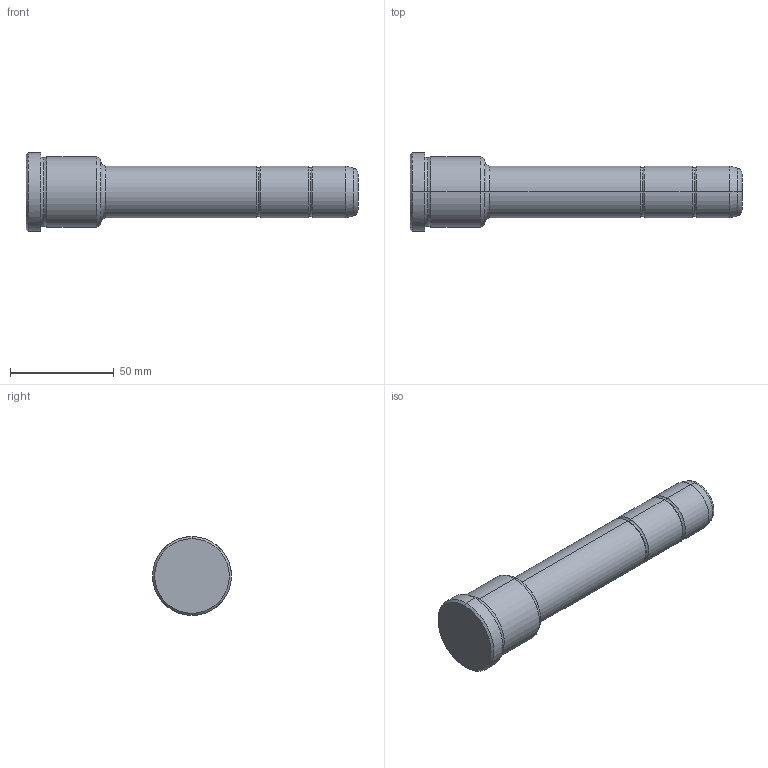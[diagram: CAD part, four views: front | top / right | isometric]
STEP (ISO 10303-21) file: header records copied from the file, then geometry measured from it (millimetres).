
FILE_DESCRIPTION(('CATIA V5 STEP Exchange'),'2;1');
FILE_NAME('C:\Users\Utente\Desktop\IO LAVORO\3D X SITO CF\X SITO\PLASTICA\351\351-25X36X160.stp','2021-08-28T09:17:38+00:00',('none'),('none'),'CATIA Version 5 Release 20 GA (IN-10)','CATIA V5 STEP AP203','none');
FILE_SCHEMA(('CONFIG_CONTROL_DESIGN'));
Length unit declared in the file: millimetre
Products named in the file (1): 351-25X36X160
Bounding box: 160 x 38 x 38 mm (x, y, z)
Volume: 94347.8 mm3; surface area: 15630.5 mm2
Topology: 1 solids, 1 shells, 36 faces, 102 edges, 70 vertices
Faces by surface type: torus 16, cylinder 10, cone 6, plane 4
Entity records: 1292 total; most frequent: CARTESIAN_POINT 321, ORIENTED_EDGE 204, DIRECTION 166, AXIS2_PLACEMENT_3D 115, EDGE_CURVE 102, CIRCLE 78, VERTEX_POINT 70, EDGE_LOOP 38
